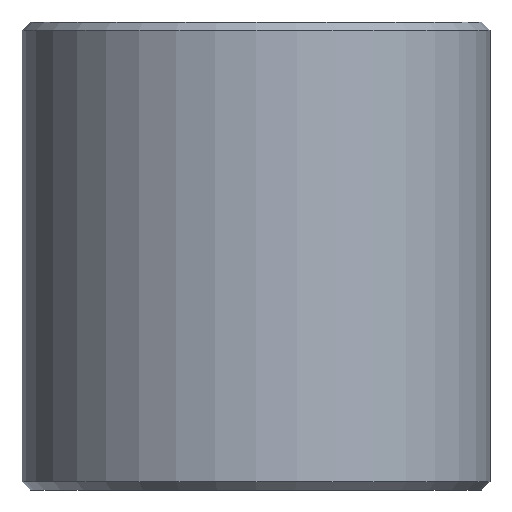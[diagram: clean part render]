
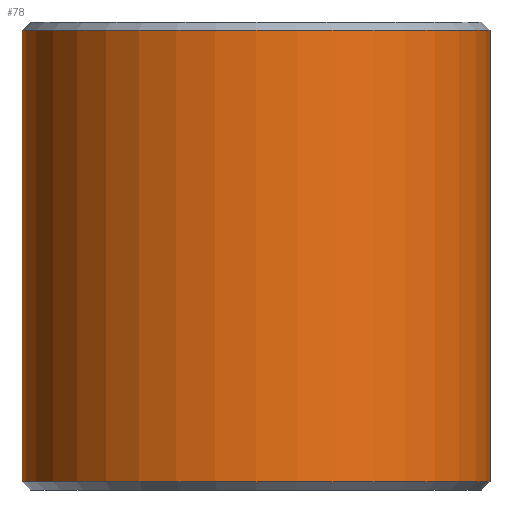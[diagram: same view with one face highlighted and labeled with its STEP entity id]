
A CAD part, front view. The second image highlights one B-rep face of the part: STEP entity #78.
In plain terms, the highlighted cylindrical face has radius 28 mm (diameter 56 mm), a full revolution.
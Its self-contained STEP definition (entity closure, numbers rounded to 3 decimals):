
#78=ADVANCED_FACE('',(#91,#92),#93,.T.);
#91=FACE_OUTER_BOUND('',#109,.T.);
#92=FACE_OUTER_BOUND('',#110,.T.);
#93=CYLINDRICAL_SURFACE('',#111,28.0);
#109=EDGE_LOOP('',(#133));
#110=EDGE_LOOP('',(#134));
#111=AXIS2_PLACEMENT_3D('',#135,#136,#137);
#133=ORIENTED_EDGE('',*,*,#152,.T.);
#134=ORIENTED_EDGE('',*,*,#153,.T.);
#135=CARTESIAN_POINT('',(0.0,0.0,28.0));
#136=DIRECTION('',(-0.0,-0.0,1.0));
#137=DIRECTION('',(-1.0,0.0,0.0));
#152=EDGE_CURVE('',#162,#162,#163,.F.);
#153=EDGE_CURVE('',#164,#164,#165,.T.);
#162=VERTEX_POINT('',#174);
#163=CIRCLE('',#175,28.0);
#164=VERTEX_POINT('',#176);
#165=CIRCLE('',#177,28.0);
#174=CARTESIAN_POINT('',(28.0,0.,27.0));
#175=AXIS2_PLACEMENT_3D('',#190,#191,#192);
#176=CARTESIAN_POINT('',(28.0,0.0,-27.0));
#177=AXIS2_PLACEMENT_3D('',#193,#194,#195);
#190=CARTESIAN_POINT('',(0.0,0.0,27.0));
#191=DIRECTION('',(0.0,0.0,1.0));
#192=DIRECTION('',(1.0,0.0,0.0));
#193=CARTESIAN_POINT('',(0.0,0.0,-27.0));
#194=DIRECTION('',(0.0,0.0,1.0));
#195=DIRECTION('',(1.0,0.0,0.0));
